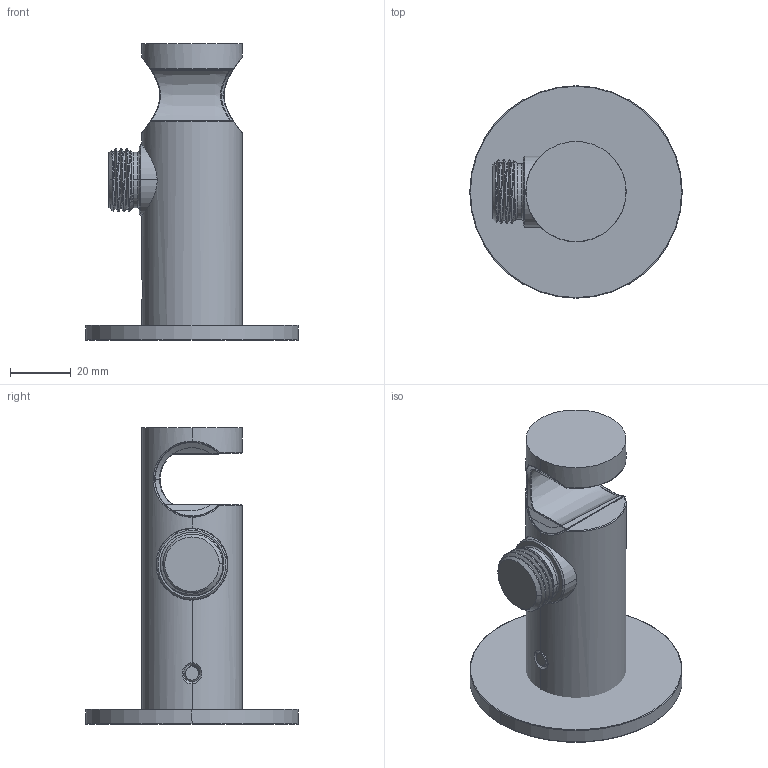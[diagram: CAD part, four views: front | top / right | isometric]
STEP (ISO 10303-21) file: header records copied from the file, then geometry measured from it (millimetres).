
FILE_DESCRIPTION((''),'2;1');
FILE_NAME('48446--00_SUB01_SW0001','2026-10-06T09:45:17',('simi1'),(''),'CREO PARAMETRIC BY PTC INC, 2022244','CREO PARAMETRIC BY PTC INC, 2022244','');
FILE_SCHEMA(('CONFIG_CONTROL_DESIGN'));
Length unit declared in the file: millimetre
Products named in the file (1): 48446--00_SUB01_SW0001
Bounding box: 70 x 70 x 97.8 mm (x, y, z)
Surface area: 23160.6 mm2 (no closed solid volume)
Topology: 0 solids, 6 shells, 122 faces, 310 edges, 187 vertices
Faces by surface type: bspline 58, cylinder 21, plane 13, cone 11, torus 10, extrusion 5, sphere 4
Entity records: 10131 total; most frequent: CARTESIAN_POINT 7670, ORIENTED_EDGE 551, DIRECTION 385, EDGE_CURVE 310, VERTEX_POINT 187, AXIS2_PLACEMENT_3D 162, B_SPLINE_CURVE_WITH_KNOTS 156, EDGE_LOOP 122
